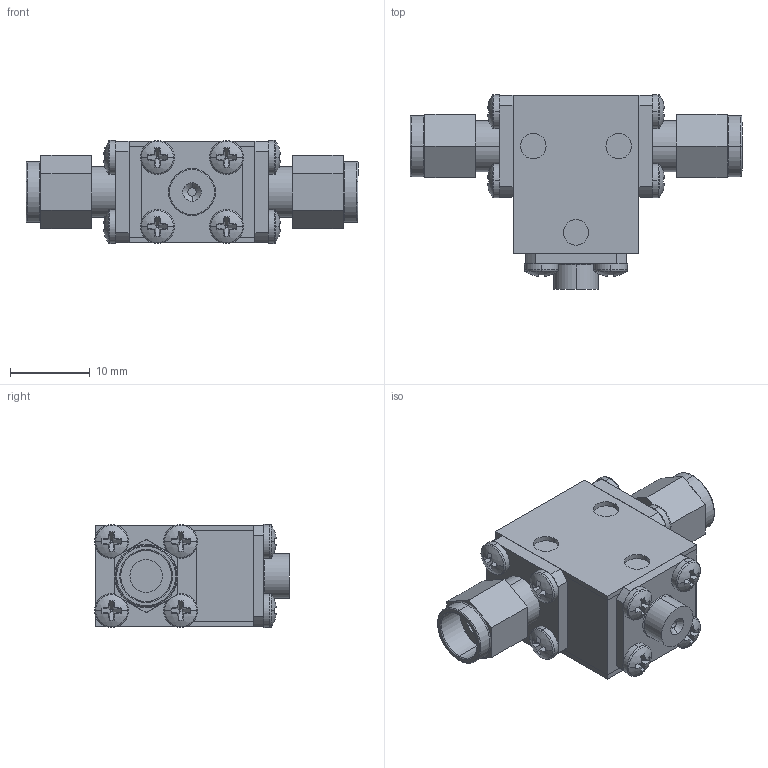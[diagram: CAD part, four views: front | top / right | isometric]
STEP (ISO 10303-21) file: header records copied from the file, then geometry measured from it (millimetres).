
FILE_DESCRIPTION (( 'STEP AP214' ), '1' );
FILE_NAME ('Package 6 Iso MM.step', '2021-12-01T21:01:33', ( '' ), ( '' ), 'SwSTEP 2.0', 'SolidWorks 2016', '' );
FILE_SCHEMA (( 'AUTOMOTIVE_DESIGN' ));
Length unit declared in the file: inch
Products named in the file (6): pan cross head_ai_CR-PHMS 0.086-56x0.125x0.125-N; 030013-1A; Delta SMA-Male; Package 6 Iso MM; Package Size 6; Package 6
Assembly tree (17 placements, depth 2):
  Package 6 Iso MM
    Package Size 6
    Package 6
    pan cross head_ai_CR-PHMS 0.086-56x0.125x0.125-N  x12
    Delta SMA-Male  x2
    030013-1A
Bounding box: 41.5 x 24.35 x 12.88 mm (x, y, z)
Volume: 5533.8 mm3; surface area: 6099.5 mm2
Topology: 17 solids, 17 shells, 430 faces, 980 edges, 604 vertices
Faces by surface type: plane 246, cylinder 118, torus 38, sphere 24, cone 4
Entity records: 4284 total; most frequent: DIRECTION 774, CARTESIAN_POINT 668, ORIENTED_EDGE 632, EDGE_CURVE 316, AXIS2_PLACEMENT_3D 308, VERTEX_POINT 202, EDGE_LOOP 168, VECTOR 158
